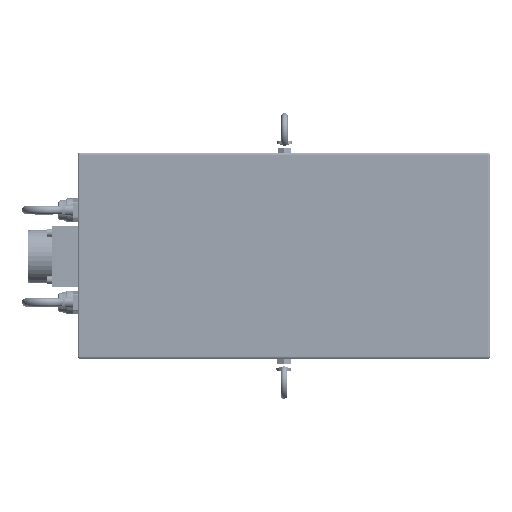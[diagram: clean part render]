
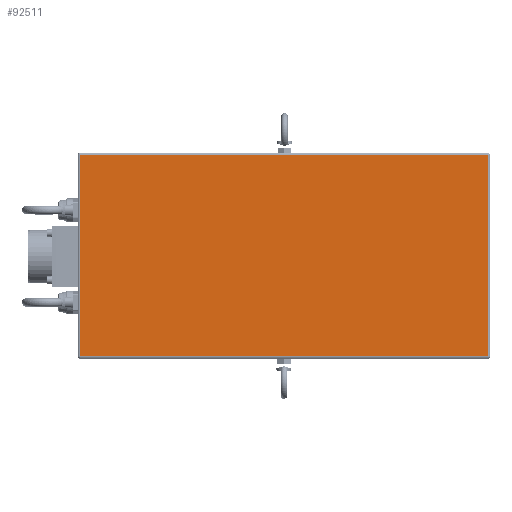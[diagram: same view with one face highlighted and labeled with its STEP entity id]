
A CAD part, top view. The second image highlights one B-rep face of the part: STEP entity #92511.
In plain terms, the highlighted planar face has unit normal (0, 0, 1).
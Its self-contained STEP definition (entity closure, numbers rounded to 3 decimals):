
#92472=CARTESIAN_POINT('',(-102.5,97.5,150.));
#92473=DIRECTION('',(0.,1.,0.));
#92474=DIRECTION('',(0.,0.,1.));
#92475=AXIS2_PLACEMENT_3D('',#92472,#92474,#92473);
#92476=PLANE('',#92475);
#92477=CARTESIAN_POINT('',(90.,-95.,150.));
#92478=VERTEX_POINT('',#92477);
#92479=CARTESIAN_POINT('',(90.,95.,150.));
#92480=VERTEX_POINT('',#92479);
#92481=CARTESIAN_POINT('',(90.,-95.,150.));
#92482=DIRECTION('',(0.,1.,0.));
#92483=VECTOR('',#92482,190.);
#92484=LINE('',#92481,#92483);
#92485=EDGE_CURVE('',#92478,#92480,#92484,.T.);
#92486=ORIENTED_EDGE('E103',*,*,#92485,.T.);
#92487=CARTESIAN_POINT('',(-295.,95.,150.));
#92488=VERTEX_POINT('',#92487);
#92489=CARTESIAN_POINT('',(90.,95.,150.));
#92490=DIRECTION('',(-1.,0.,0.));
#92491=VECTOR('',#92490,385.);
#92492=LINE('',#92489,#92491);
#92493=EDGE_CURVE('',#92480,#92488,#92492,.T.);
#92494=ORIENTED_EDGE('E108',*,*,#92493,.T.);
#92495=CARTESIAN_POINT('',(-295.,-95.,150.));
#92496=VERTEX_POINT('',#92495);
#92497=CARTESIAN_POINT('',(-295.,95.,150.));
#92498=DIRECTION('',(0.,-1.,0.));
#92499=VECTOR('',#92498,190.);
#92500=LINE('',#92497,#92499);
#92501=EDGE_CURVE('',#92488,#92496,#92500,.T.);
#92502=ORIENTED_EDGE('E110',*,*,#92501,.T.);
#92503=CARTESIAN_POINT('',(-295.,-95.,150.));
#92504=DIRECTION('',(1.,0.,0.));
#92505=VECTOR('',#92504,385.);
#92506=LINE('',#92503,#92505);
#92507=EDGE_CURVE('',#92496,#92478,#92506,.T.);
#92508=ORIENTED_EDGE('E106',*,*,#92507,.T.);
#92509=EDGE_LOOP('',(#92486,#92494,#92502,#92508));
#92510=FACE_OUTER_BOUND('',#92509,.T.);
#92511=ADVANCED_FACE('F8',(#92510),#92476,.T.);
